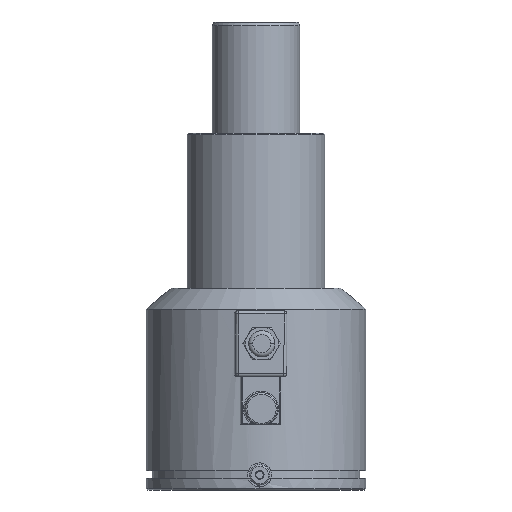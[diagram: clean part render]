
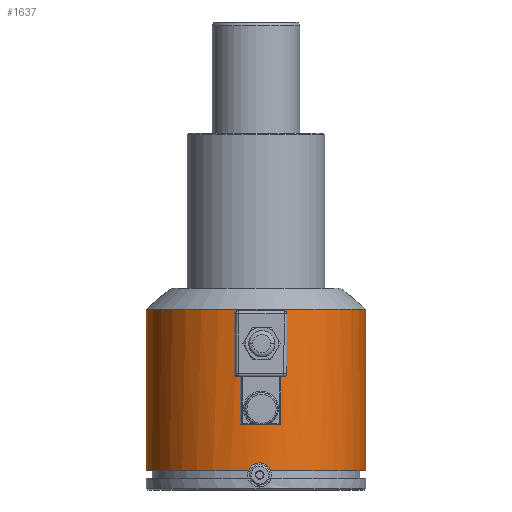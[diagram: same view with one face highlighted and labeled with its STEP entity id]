
A CAD part, front view. The second image highlights one B-rep face of the part: STEP entity #1637.
In plain terms, the highlighted cylindrical face has radius 75 mm (diameter 150 mm), a partial arc.
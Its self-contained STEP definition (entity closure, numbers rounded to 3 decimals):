
#85=CARTESIAN_POINT('Axis2P3D Location',(0.,0.,-9.)) ;
#277=CARTESIAN_POINT('Line Origine',(-75.,0.,-15.5)) ;
#281=CARTESIAN_POINT('Vertex',(-75.,0.,-18.)) ;
#283=CARTESIAN_POINT('Vertex',(-75.,0.,92.735)) ;
#290=CARTESIAN_POINT('Vertex',(75.,0.,92.735)) ;
#293=CARTESIAN_POINT('Line Origine',(75.,0.,-15.5)) ;
#297=CARTESIAN_POINT('Vertex',(75.,0.,-18.)) ;
#318=CARTESIAN_POINT('Control Point',(-10.976,-74.192,76.191)) ;
#319=CARTESIAN_POINT('Control Point',(-9.634,-74.391,78.636)) ;
#320=CARTESIAN_POINT('Control Point',(-7.726,-74.642,80.765)) ;
#321=CARTESIAN_POINT('Control Point',(-5.352,-74.879,82.413)) ;
#322=CARTESIAN_POINT('Control Point',(-0.627,-75.099,84.249)) ;
#323=CARTESIAN_POINT('Control Point',(4.385,-74.92,84.078)) ;
#324=CARTESIAN_POINT('Control Point',(6.52,-74.759,83.61)) ;
#325=CARTESIAN_POINT('Control Point',(10.998,-74.261,81.736)) ;
#326=CARTESIAN_POINT('Control Point',(14.429,-73.632,78.266)) ;
#327=CARTESIAN_POINT('Control Point',(15.874,-73.309,75.946)) ;
#328=CARTESIAN_POINT('Control Point',(17.377,-72.961,71.586)) ;
#329=CARTESIAN_POINT('Control Point',(17.208,-72.999,67.023)) ;
#330=CARTESIAN_POINT('Control Point',(16.85,-73.085,65.179)) ;
#331=CARTESIAN_POINT('Control Point',(16.218,-73.231,63.425)) ;
#332=CARTESIAN_POINT('Control Point',(15.34,-73.415,61.809)) ;
#333=CARTESIAN_POINT('Vertex',(-10.976,-74.192,76.191)) ;
#335=CARTESIAN_POINT('Vertex',(15.34,-73.415,61.809)) ;
#365=CARTESIAN_POINT('Control Point',(15.34,-73.415,61.809)) ;
#366=CARTESIAN_POINT('Control Point',(14.012,-73.692,59.364)) ;
#367=CARTESIAN_POINT('Control Point',(12.122,-74.056,57.235)) ;
#368=CARTESIAN_POINT('Control Point',(9.766,-74.432,55.587)) ;
#369=CARTESIAN_POINT('Control Point',(5.062,-74.93,53.751)) ;
#370=CARTESIAN_POINT('Control Point',(0.048,-75.048,53.922)) ;
#371=CARTESIAN_POINT('Control Point',(-2.092,-75.013,54.39)) ;
#372=CARTESIAN_POINT('Control Point',(-6.592,-74.781,56.264)) ;
#373=CARTESIAN_POINT('Control Point',(-10.054,-74.356,59.734)) ;
#374=CARTESIAN_POINT('Control Point',(-11.515,-74.119,62.054)) ;
#375=CARTESIAN_POINT('Control Point',(-13.036,-73.86,66.414)) ;
#376=CARTESIAN_POINT('Control Point',(-12.866,-73.888,70.977)) ;
#377=CARTESIAN_POINT('Control Point',(-12.503,-73.953,72.821)) ;
#378=CARTESIAN_POINT('Control Point',(-11.863,-74.061,74.575)) ;
#379=CARTESIAN_POINT('Control Point',(-10.976,-74.192,76.191)) ;
#1525=CARTESIAN_POINT('Axis2P3D Location',(0.,0.,92.735)) ;
#1588=CARTESIAN_POINT('Axis2P3D Location',(0.,0.,-18.)) ;
#1592=CARTESIAN_POINT('Vertex',(10.353,-74.282,-18.)) ;
#1595=CARTESIAN_POINT('Axis2P3D Location',(0.,0.,-18.)) ;
#1599=CARTESIAN_POINT('Vertex',(-5.229,-74.817,-18.)) ;
#1603=CARTESIAN_POINT('Control Point',(-5.229,-74.817,-18.)) ;
#1604=CARTESIAN_POINT('Control Point',(-5.079,-74.828,-17.567)) ;
#1605=CARTESIAN_POINT('Control Point',(-4.892,-74.841,-17.147)) ;
#1606=CARTESIAN_POINT('Control Point',(-4.672,-74.854,-16.745)) ;
#1607=CARTESIAN_POINT('Vertex',(-4.672,-74.854,-16.745)) ;
#1611=CARTESIAN_POINT('Control Point',(10.353,-74.282,-18.)) ;
#1612=CARTESIAN_POINT('Control Point',(10.108,-74.316,-17.29)) ;
#1613=CARTESIAN_POINT('Control Point',(9.783,-74.36,-16.608)) ;
#1614=CARTESIAN_POINT('Control Point',(9.381,-74.413,-15.967)) ;
#1615=CARTESIAN_POINT('Control Point',(7.968,-74.586,-14.196)) ;
#1616=CARTESIAN_POINT('Control Point',(6.013,-74.777,-12.972)) ;
#1617=CARTESIAN_POINT('Control Point',(4.538,-74.887,-12.47)) ;
#1618=CARTESIAN_POINT('Control Point',(1.416,-75.025,-12.174)) ;
#1619=CARTESIAN_POINT('Control Point',(-1.527,-75.006,-13.284)) ;
#1620=CARTESIAN_POINT('Control Point',(-2.859,-74.958,-14.196)) ;
#1621=CARTESIAN_POINT('Control Point',(-3.926,-74.901,-15.382)) ;
#1622=CARTESIAN_POINT('Control Point',(-4.672,-74.854,-16.745)) ;
#86=DIRECTION('Axis2P3D Direction',(0.,0.,-1.)) ;
#87=DIRECTION('Axis2P3D XDirection',(1.,0.,0.)) ;
#278=DIRECTION('Vector Direction',(0.,0.,-1.)) ;
#294=DIRECTION('Vector Direction',(0.,0.,-1.)) ;
#1526=DIRECTION('Axis2P3D Direction',(0.,0.,1.)) ;
#1589=DIRECTION('Axis2P3D Direction',(0.,0.,-1.)) ;
#1596=DIRECTION('Axis2P3D Direction',(0.,0.,-1.)) ;
#88=AXIS2_PLACEMENT_3D('Cylinder Axis2P3D',#85,#86,#87) ;
#1527=AXIS2_PLACEMENT_3D('Circle Axis2P3D',#1525,#1526,$) ;
#1590=AXIS2_PLACEMENT_3D('Circle Axis2P3D',#1588,#1589,$) ;
#1597=AXIS2_PLACEMENT_3D('Circle Axis2P3D',#1595,#1596,$) ;
#1625=ORIENTED_EDGE('',*,*,#1594,.F.) ;
#1626=ORIENTED_EDGE('',*,*,#299,.T.) ;
#1627=ORIENTED_EDGE('',*,*,#1529,.F.) ;
#1628=ORIENTED_EDGE('',*,*,#285,.F.) ;
#1629=ORIENTED_EDGE('',*,*,#1601,.F.) ;
#1630=ORIENTED_EDGE('',*,*,#1609,.T.) ;
#1631=ORIENTED_EDGE('',*,*,#1623,.F.) ;
#1634=ORIENTED_EDGE('',*,*,#337,.T.) ;
#1635=ORIENTED_EDGE('',*,*,#380,.T.) ;
#1636=FACE_BOUND('',#1633,.T.) ;
#279=VECTOR('Line Direction',#278,1.) ;
#295=VECTOR('Line Direction',#294,1.) ;
#1637=ADVANCED_FACE('',(#1632,#1636),#89,.T.) ;
#317=B_SPLINE_CURVE_WITH_KNOTS('',5,(#318,#319,#320,#321,#322,#323,#324,#325,#326,#327,#328,#329,#330,#331,#332),.UNSPECIFIED.,.F.,.U.,(6,3,3,3,6),(0.,19.767,34.914,53.74,66.812),.UNSPECIFIED.) ;
#364=B_SPLINE_CURVE_WITH_KNOTS('',5,(#365,#366,#367,#368,#369,#370,#371,#372,#373,#374,#375,#376,#377,#378,#379),.UNSPECIFIED.,.F.,.U.,(6,3,3,3,6),(0.,19.767,34.914,53.74,66.812),.UNSPECIFIED.) ;
#1602=B_SPLINE_CURVE_WITH_KNOTS('',3,(#1603,#1604,#1605,#1606),.UNSPECIFIED.,.F.,.U.,(4,4),(0.,1.945),.UNSPECIFIED.) ;
#1610=B_SPLINE_CURVE_WITH_KNOTS('',5,(#1611,#1612,#1613,#1614,#1615,#1616,#1617,#1618,#1619,#1620,#1621,#1622),.UNSPECIFIED.,.F.,.U.,(6,3,3,6),(0.,5.316,15.963,26.954),.UNSPECIFIED.) ;
#1528=CIRCLE('generated circle',#1527,75.) ;
#1591=CIRCLE('generated circle',#1590,75.) ;
#1598=CIRCLE('generated circle',#1597,75.) ;
#89=CYLINDRICAL_SURFACE('generated cylinder',#88,75.) ;
#285=EDGE_CURVE('',#282,#284,#280,.F.) ;
#299=EDGE_CURVE('',#298,#291,#296,.F.) ;
#337=EDGE_CURVE('',#334,#336,#317,.T.) ;
#380=EDGE_CURVE('',#336,#334,#364,.T.) ;
#1529=EDGE_CURVE('',#284,#291,#1528,.T.) ;
#1594=EDGE_CURVE('',#298,#1593,#1591,.T.) ;
#1601=EDGE_CURVE('',#1600,#282,#1598,.T.) ;
#1609=EDGE_CURVE('',#1600,#1608,#1602,.T.) ;
#1623=EDGE_CURVE('',#1593,#1608,#1610,.T.) ;
#1624=EDGE_LOOP('',(#1625,#1626,#1627,#1628,#1629,#1630,#1631)) ;
#1633=EDGE_LOOP('',(#1634,#1635)) ;
#1632=FACE_OUTER_BOUND('',#1624,.T.) ;
#280=LINE('Line',#277,#279) ;
#296=LINE('Line',#293,#295) ;
#282=VERTEX_POINT('',#281) ;
#284=VERTEX_POINT('',#283) ;
#291=VERTEX_POINT('',#290) ;
#298=VERTEX_POINT('',#297) ;
#334=VERTEX_POINT('',#333) ;
#336=VERTEX_POINT('',#335) ;
#1593=VERTEX_POINT('',#1592) ;
#1600=VERTEX_POINT('',#1599) ;
#1608=VERTEX_POINT('',#1607) ;
